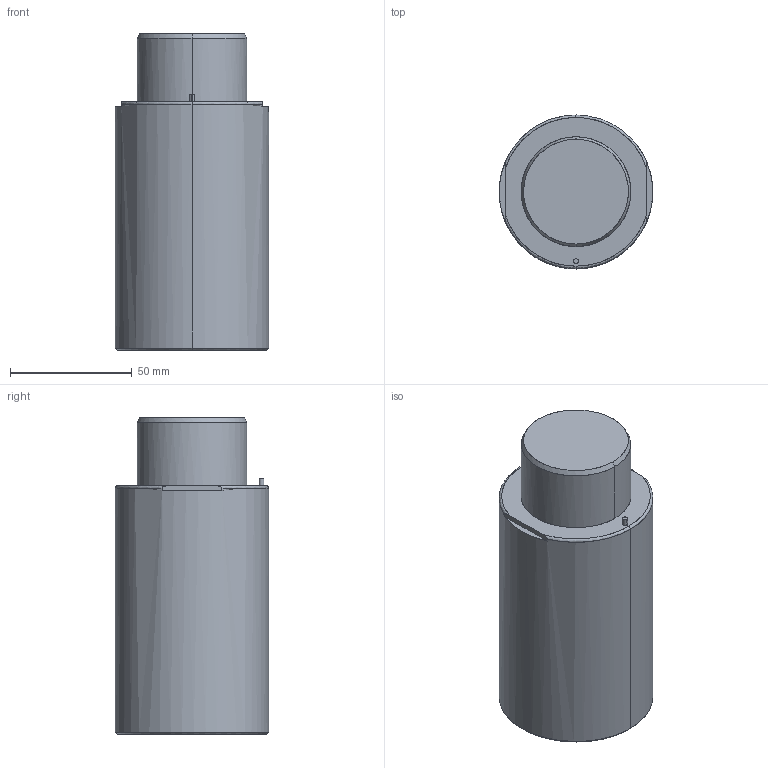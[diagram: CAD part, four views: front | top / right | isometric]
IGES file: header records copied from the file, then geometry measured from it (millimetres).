
Global section: file name: E:\UnigraphicsGraphicData\MISUMI_PRESS-PARTS\IGES\3d_gsx63-25_03973_r00.igs; native system: NX V5.0; preprocessor: UGS NX IGES V5.0; author: MISUMI; date: 20110105.160830; units: millimetre
Bounding box: 63 x 63 x 130 mm (x, y, z)
Surface area: 31792.4 mm2 (no closed solid volume)
Topology: 0 solids, 0 shells, 59 faces, 428 edges, 420 vertices
Faces by surface type: bspline 59
